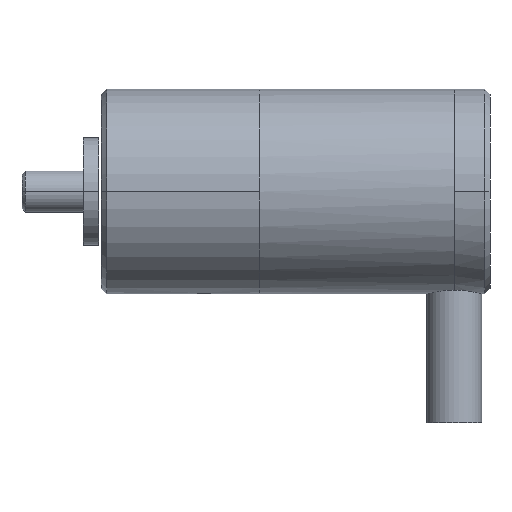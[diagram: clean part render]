
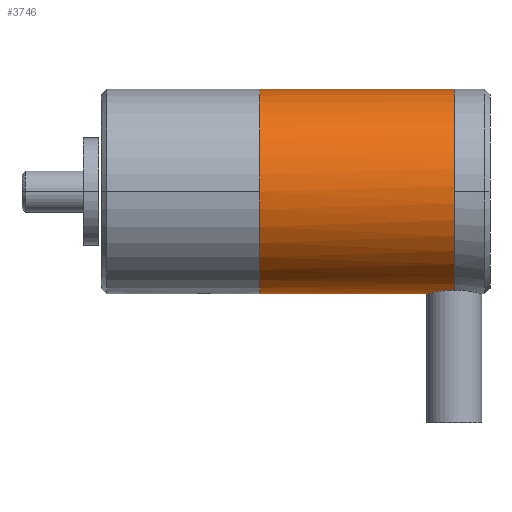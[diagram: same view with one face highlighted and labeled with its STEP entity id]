
A CAD part, front view. The second image highlights one B-rep face of the part: STEP entity #3746.
In plain terms, the highlighted cylindrical face has radius 10 mm (diameter 20 mm), a partial arc.
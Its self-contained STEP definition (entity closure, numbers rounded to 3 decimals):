
#68 = CARTESIAN_POINT ( 'NONE',  ( 44.422, 13.545, 7.581 ) ) ;
#80 = DIRECTION ( 'NONE',  ( 0., 0., 1. ) ) ;
#147 = DIRECTION ( 'NONE',  ( 1., 0., 0. ) ) ;
#261 = CYLINDRICAL_SURFACE ( 'NONE', #1951, 10. ) ;
#317 = CARTESIAN_POINT ( 'NONE',  ( 27.58, 15.205, 17.446 ) ) ;
#323 = VERTEX_POINT ( 'NONE', #3881 ) ;
#328 = CARTESIAN_POINT ( 'NONE',  ( 44.019, 14.332, 7.482 ) ) ;
#548 = B_SPLINE_CURVE_WITH_KNOTS ( 'NONE', 3,
 ( #1649, #2047, #837, #3140, #1102, #3500, #1364, #3900, #1671, #68, #2064, #328, #2426, #587, #2806, #848 ),
 .UNSPECIFIED., .F., .F.,
 ( 4, 2, 2, 2, 2, 2, 2, 4 ),
 ( 0., 0.001, 0.001, 0.002, 0.002, 0.003, 0.004, 0.004 ),
 .UNSPECIFIED. ) ;
#554 = CARTESIAN_POINT ( 'NONE',  ( 46.58, 15.205, 7.446 ) ) ;
#577 = DIRECTION ( 'NONE',  ( 0., 0., 1. ) ) ;
#587 = CARTESIAN_POINT ( 'NONE',  ( 43.897, 14.852, 7.45 ) ) ;
#837 = CARTESIAN_POINT ( 'NONE',  ( 46.224, 12.523, 7.812 ) ) ;
#848 = CARTESIAN_POINT ( 'NONE',  ( 43.88, 15.205, 7.446 ) ) ;
#1033 = CARTESIAN_POINT ( 'NONE',  ( 46.58, 15.205, 27.446 ) ) ;
#1046 = VERTEX_POINT ( 'NONE', #1033 ) ;
#1102 = CARTESIAN_POINT ( 'NONE',  ( 45.706, 12.644, 7.779 ) ) ;
#1186 = FACE_OUTER_BOUND ( 'NONE', #3866, .T. ) ;
#1224 = LINE ( 'NONE', #554, #2021 ) ;
#1352 = DIRECTION ( 'NONE',  ( 1., 0., 0. ) ) ;
#1364 = CARTESIAN_POINT ( 'NONE',  ( 45.225, 12.863, 7.723 ) ) ;
#1373 = CARTESIAN_POINT ( 'NONE',  ( 46.58, 15.205, 27.446 ) ) ;
#1649 = CARTESIAN_POINT ( 'NONE',  ( 46.58, 12.505, 7.817 ) ) ;
#1671 = CARTESIAN_POINT ( 'NONE',  ( 44.794, 13.173, 7.654 ) ) ;
#1690 = DIRECTION ( 'NONE',  ( 1., 0., 0. ) ) ;
#1743 = CARTESIAN_POINT ( 'NONE',  ( 43.88, 15.205, 7.446 ) ) ;
#1782 = CARTESIAN_POINT ( 'NONE',  ( 46.58, 15.205, 17.446 ) ) ;
#1923 = VECTOR ( 'NONE', #1352, 1000. ) ;
#1944 = CIRCLE ( 'NONE', #2427, 10. ) ;
#1951 = AXIS2_PLACEMENT_3D ( 'NONE', #1782, #147, #2173 ) ;
#1952 = LINE ( 'NONE', #1373, #1923 ) ;
#1969 = CIRCLE ( 'NONE', #2430, 10. ) ;
#2021 = VECTOR ( 'NONE', #2736, 1000. ) ;
#2047 = CARTESIAN_POINT ( 'NONE',  ( 46.401, 12.505, 7.817 ) ) ;
#2064 = CARTESIAN_POINT ( 'NONE',  ( 44.221, 13.845, 7.533 ) ) ;
#2173 = DIRECTION ( 'NONE',  ( 0., 0., 1. ) ) ;
#2272 = VERTEX_POINT ( 'NONE', #2517 ) ;
#2407 = DIRECTION ( 'NONE',  ( 1., 0., 0. ) ) ;
#2426 = CARTESIAN_POINT ( 'NONE',  ( 43.967, 14.503, 7.469 ) ) ;
#2427 = AXIS2_PLACEMENT_3D ( 'NONE', #317, #2407, #577 ) ;
#2430 = AXIS2_PLACEMENT_3D ( 'NONE', #3920, #1690, #80 ) ;
#2517 = CARTESIAN_POINT ( 'NONE',  ( 27.58, 15.205, 27.446 ) ) ;
#2657 = VERTEX_POINT ( 'NONE', #3867 ) ;
#2736 = DIRECTION ( 'NONE',  ( 1., 0., 0. ) ) ;
#2806 = CARTESIAN_POINT ( 'NONE',  ( 43.88, 15.028, 7.446 ) ) ;
#3056 = ORIENTED_EDGE ( 'NONE', *, *, #3519, .T. ) ;
#3058 = ORIENTED_EDGE ( 'NONE', *, *, #3512, .T. ) ;
#3107 = ORIENTED_EDGE ( 'NONE', *, *, #3521, .F. ) ;
#3124 = ORIENTED_EDGE ( 'NONE', *, *, #3528, .F. ) ;
#3131 = VERTEX_POINT ( 'NONE', #1743 ) ;
#3140 = CARTESIAN_POINT ( 'NONE',  ( 45.878, 12.592, 7.793 ) ) ;
#3144 = ORIENTED_EDGE ( 'NONE', *, *, #3530, .F. ) ;
#3500 = CARTESIAN_POINT ( 'NONE',  ( 45.38, 12.78, 7.744 ) ) ;
#3512 = EDGE_CURVE ( 'NONE', #323, #3131, #1224, .T. ) ;
#3519 = EDGE_CURVE ( 'NONE', #2272, #323, #1944, .T. ) ;
#3521 = EDGE_CURVE ( 'NONE', #2657, #3131, #548, .T. ) ;
#3528 = EDGE_CURVE ( 'NONE', #1046, #2657, #1969, .T. ) ;
#3530 = EDGE_CURVE ( 'NONE', #2272, #1046, #1952, .T. ) ;
#3746 = ADVANCED_FACE ( 'NONE', ( #1186 ), #261, .T. ) ;
#3866 = EDGE_LOOP ( 'NONE', ( #3056, #3058, #3107, #3124, #3144 ) ) ;
#3867 = CARTESIAN_POINT ( 'NONE',  ( 46.58, 12.505, 7.817 ) ) ;
#3881 = CARTESIAN_POINT ( 'NONE',  ( 27.58, 15.205, 7.446 ) ) ;
#3900 = CARTESIAN_POINT ( 'NONE',  ( 44.932, 13.059, 7.678 ) ) ;
#3920 = CARTESIAN_POINT ( 'NONE',  ( 46.58, 15.205, 17.446 ) ) ;
